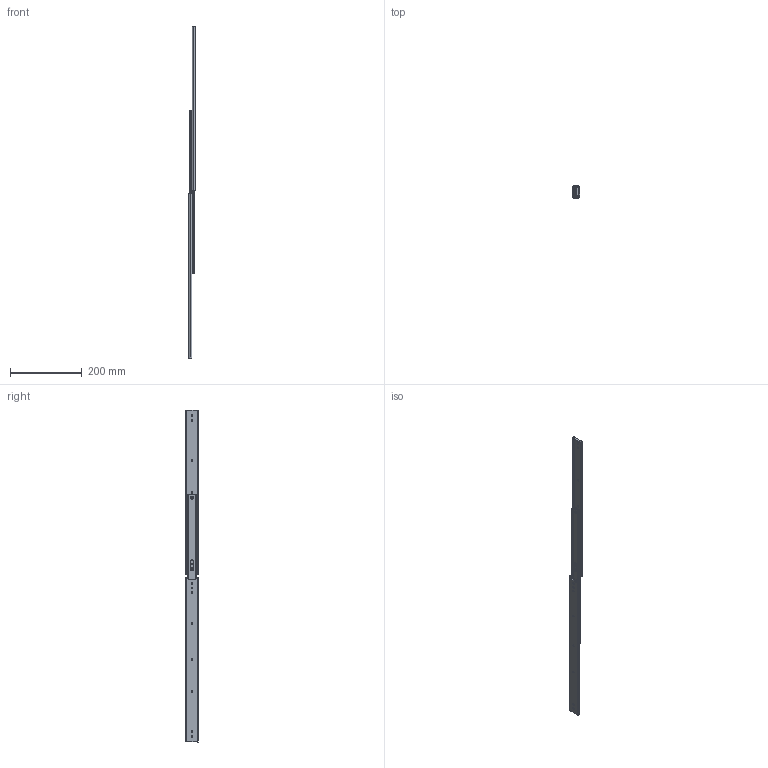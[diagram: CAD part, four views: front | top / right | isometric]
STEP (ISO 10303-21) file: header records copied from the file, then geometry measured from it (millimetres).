
FILE_DESCRIPTION (( 'STEP AP214' ), '1' );
FILE_NAME ('3560-450-open.STEP', '2024-08-20T05:54:59', ( '' ), ( '' ), 'SwSTEP 2.0', 'SolidWorks 2024', '' );
FILE_SCHEMA (( 'AUTOMOTIVE_DESIGN' ));
Length unit declared in the file: millimetre
Products named in the file (4): 26065P3-18''''.stp_Part14; CAD_3560-450_TelescopicRailLight_Rollco.stp_Assem7; 26065P1-18''''.stp_Part13; 3560-450-open
Assembly tree (5 placements, depth 3):
  3560-450-open
    CAD_3560-450_TelescopicRailLight_Rollco.stp_Assem7
      26065P1-18''''.stp_Part13  x2
      26065P3-18''''.stp_Part14  x2
Bounding box: 19.6 x 35.27 x 924.4 mm (x, y, z)
Surface area: 150290.7 mm2 (no closed solid volume)
Topology: 0 solids, 4 shells, 306 faces, 882 edges, 584 vertices
Faces by surface type: cylinder 162, plane 144
Entity records: 6501 total; most frequent: CARTESIAN_POINT 3189, ORIENTED_EDGE 882, EDGE_CURVE 441, B_SPLINE_CURVE_WITH_KNOTS 428, DIRECTION 337, VERTEX_POINT 292, EDGE_LOOP 177, AXIS2_PLACEMENT_3D 162
